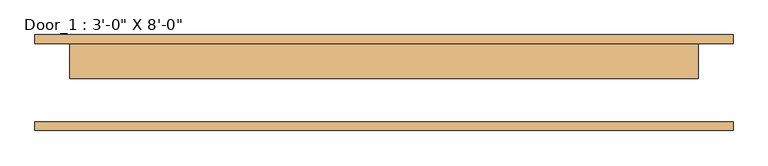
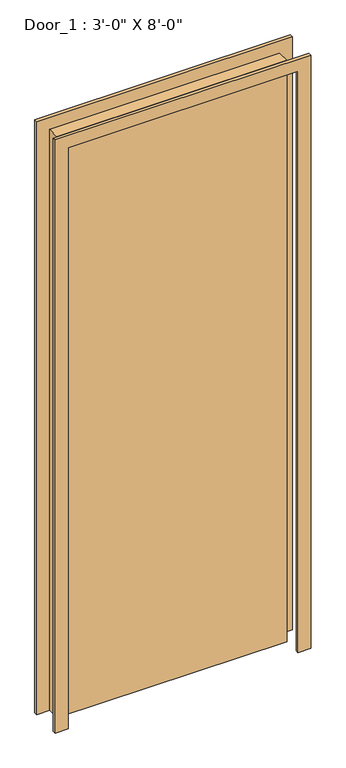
"""IFC4 building model written with IfcOpenShell, lengths in millimetres: door geometry."""

import ifcopenshell
import ifcopenshell.guid

model = None  # the IFC model being written
_history = None  # IfcOwnerHistory: only IFC2X3 demands one
_inside = {}  # id of a spatial element -> (the spatial element, [elements in it])
_under = {}  # id of a project, library or spatial element -> (it, [spatial elements below it])
_declared = {}  # id of a project -> (the project, [libraries it declares])
_typed = {}  # id of a type object -> (the type object, [elements of that type])
_made_of = {}  # id of a material, layer set ... -> (it, [elements and type objects made of it])


def new_model(schema):
    """Start an empty IFC model of exactly this schema.

    Asked for "IFC4X3", IfcOpenShell would pick the latest addendum, in which some entities
    have other attributes; the version numbers below select the first issue.
    IFC2X3 requires an IfcOwnerHistory on every rooted entity: one is made here for all.
    """
    global model, _history
    if schema == "IFC4X3":
        model = ifcopenshell.file(schema_version=(4, 3, 0, 0))
    else:
        model = ifcopenshell.file(schema=schema)
    _inside.clear()
    _under.clear()
    _declared.clear()
    _typed.clear()
    _made_of.clear()
    _history = None
    if model.schema == "IFC2X3":
        org = make("IfcOrganization", Name="unknown")
        user = make(
            "IfcPersonAndOrganization",
            ThePerson=make("IfcPerson", FamilyName="unknown"),
            TheOrganization=org,
        )
        app = make(
            "IfcApplication",
            ApplicationDeveloper=org,
            Version="unknown",
            ApplicationFullName="unknown",
            ApplicationIdentifier="unknown",
        )
        _history = make(
            "IfcOwnerHistory",
            OwningUser=user,
            OwningApplication=app,
            ChangeAction="ADDED",
            CreationDate=0,
        )
    return model


def make(cls, **values):
    """One entity of the class cls with the attributes given. An attribute that is None is left unset."""
    return model.create_entity(
        cls, **{name: value for name, value in values.items() if value is not None}
    )


def rooted(cls, **values):
    """An entity with a GlobalId (a new one), such as an element, a storey or a relation."""
    return make(cls, GlobalId=ifcopenshell.guid.new(), OwnerHistory=_history, **values)


def si_unit(unit_type, name, prefix=None):
    """IfcSIUnit, for example si_unit("LENGTHUNIT", "METRE", prefix="MILLI")."""
    return make("IfcSIUnit", UnitType=unit_type, Prefix=prefix, Name=name)


def assignment(units):
    """IfcUnitAssignment: the units of a project."""
    return None if units is None else make("IfcUnitAssignment", Units=units)


def point(xyz):
    """IfcCartesianPoint."""
    return None if xyz is None else make("IfcCartesianPoint", Coordinates=xyz)


def direction(xyz):
    """IfcDirection."""
    return None if xyz is None else make("IfcDirection", DirectionRatios=xyz)


def frame(location, z_axis=None, x_axis=None):
    """IfcAxis2Placement3D, a coordinate frame: its origin and axes. An axis left out is left unset."""
    return make(
        "IfcAxis2Placement3D",
        Location=point(location),
        Axis=direction(z_axis),
        RefDirection=direction(x_axis),
    )


def origin():
    """The frame at (0, 0, 0) with its axes left unset."""
    return frame((0.0, 0.0, 0.0))


def origin_with_axes():
    """The frame at (0, 0, 0) with the z axis (0, 0, 1) and the x axis (1, 0, 0) written out."""
    return frame((0.0, 0.0, 0.0), z_axis=(0.0, 0.0, 1.0), x_axis=(1.0, 0.0, 0.0))


def place(relative_to, where):
    """IfcLocalPlacement: puts the frame where relative to a parent placement (None: the world)."""
    return make(
        "IfcLocalPlacement", PlacementRelTo=relative_to, RelativePlacement=where
    )


def context(
    kind, dimensions, precision=None, world=None, true_north=None, identifier=None
):
    """IfcGeometricRepresentationContext, for example the 3D "Model" context."""
    return make(
        "IfcGeometricRepresentationContext",
        ContextIdentifier=identifier,
        ContextType=kind,
        CoordinateSpaceDimension=dimensions,
        Precision=precision,
        WorldCoordinateSystem=world,
        TrueNorth=true_north,
    )


def project(units=None, contexts=None):
    """IfcProject with its units and contexts."""
    return rooted(
        "IfcProject",
        Name="project",
        RepresentationContexts=contexts,
        UnitsInContext=assignment(units),
    )


def spatial(cls, under=None, at=None, **own):
    """A site, building, storey or space (cls), placed at a placement, below another one or the project."""
    s = rooted(cls, ObjectPlacement=at, **own)
    if under is not None:
        _under.setdefault(under.id(), (under, []))[1].append(s)
    return s


def polyline(points):
    """IfcPolyline through the points."""
    return make("IfcPolyline", Points=[point(p) for p in points])


def outline(outer, holes=None, kind="AREA"):
    """IfcArbitraryClosedProfileDef: a profile drawn as a closed curve; with holes, ...WithVoids."""
    if holes is None:
        return make("IfcArbitraryClosedProfileDef", ProfileType=kind, OuterCurve=outer)
    return make(
        "IfcArbitraryProfileDefWithVoids",
        ProfileType=kind,
        OuterCurve=outer,
        InnerCurves=holes,
    )


def extrude(swept, where, along, depth):
    """IfcExtrudedAreaSolid: the profile swept, set in the frame where, extruded along a direction by depth."""
    return make(
        "IfcExtrudedAreaSolid",
        SweptArea=swept,
        Position=where,
        ExtrudedDirection=direction(along),
        Depth=depth,
    )


def shape(context_of_items, identifier, shape_type, items):
    """IfcShapeRepresentation: the items that make up one representation, for example the "Body"."""
    return make(
        "IfcShapeRepresentation",
        ContextOfItems=context_of_items,
        RepresentationIdentifier=identifier,
        RepresentationType=shape_type,
        Items=items,
    )


def source(mapping_origin, context_of_items, identifier, shape_type, items):
    """IfcRepresentationMap: a shape defined once, which mapped items show again and again."""
    return make(
        "IfcRepresentationMap",
        MappingOrigin=mapping_origin,
        MappedRepresentation=shape(context_of_items, identifier, shape_type, items),
    )


def transform(
    local_origin,
    x_axis=None,
    y_axis=None,
    z_axis=None,
    scale=None,
    scale2=None,
    scale3=None,
    uniform=True,
):
    """IfcCartesianTransformationOperator3D, or its non-uniform kind. x_axis, y_axis, z_axis: its Axis1, 2, 3."""
    if uniform:
        return make(
            "IfcCartesianTransformationOperator3D",
            Axis1=direction(x_axis),
            Axis2=direction(y_axis),
            LocalOrigin=point(local_origin),
            Scale=scale,
            Axis3=direction(z_axis),
        )
    return make(
        "IfcCartesianTransformationOperator3DnonUniform",
        Axis1=direction(x_axis),
        Axis2=direction(y_axis),
        LocalOrigin=point(local_origin),
        Scale=scale,
        Axis3=direction(z_axis),
        Scale2=scale2,
        Scale3=scale3,
    )


def mapped(mapping_source, mapping_target):
    """IfcMappedItem: shows the shape of a source again, moved by a transform."""
    return make(
        "IfcMappedItem", MappingSource=mapping_source, MappingTarget=mapping_target
    )


def made_of(thing, what):
    """Note that an element or type object is made of a material, layer set ...; save() writes the relation."""
    if what is not None:
        _made_of.setdefault(what.id(), (what, []))[1].append(thing)
    return thing


def element(
    cls,
    number,
    at=None,
    inside=None,
    cuts=None,
    type_object=None,
    material=None,
    context=None,
    identifier="Body",
    shape_type=None,
    held_by="IfcProductDefinitionShape",
    body=None,
    shapes=None,
    **own,
):
    """One element of the class cls, such as IfcWall. Its Tag is "e" and its number.

    at: its placement. inside: the storey or other place that contains it. cuts: it is an
    opening in that element (IfcRelVoidsElement). A single representation is given by context,
    identifier, shape_type and body (its items); several are given by shapes. held_by: the class
    of the entity that holds the representations. save() writes the other relations.
    """
    e = rooted(cls, Tag="e%d" % number, ObjectPlacement=at, **own)
    if body is not None:
        shapes = [shape(context, identifier, shape_type, body)]
    if shapes is not None:
        e.Representation = make(held_by, Representations=shapes)
    if inside is not None:
        _inside.setdefault(inside.id(), (inside, []))[1].append(e)
    if cuts is not None:
        rooted(
            "IfcRelVoidsElement", RelatingBuildingElement=cuts, RelatedOpeningElement=e
        )
    if type_object is not None:
        _typed.setdefault(type_object.id(), (type_object, []))[1].append(e)
    return made_of(e, material)


def aggregate(whole, parts):
    """IfcRelAggregates: a whole, such as a stair, and the parts it consists of."""
    return rooted("IfcRelAggregates", RelatingObject=whole, RelatedObjects=parts)


def save(model, path):
    """Write the relations noted so far, then the file.

    IfcRelAggregates (storeys below a building ...), IfcRelContainedInSpatialStructure (elements
    in a storey), IfcRelDefinesByType, IfcRelAssociatesMaterial and IfcRelDeclares: one each for
    every whole, place, type object, material and project.
    """
    for whole, parts in _under.values():
        aggregate(whole, parts)
    for where, things in _inside.values():
        rooted(
            "IfcRelContainedInSpatialStructure",
            RelatedElements=things,
            RelatingStructure=where,
        )
    for kind, things in _typed.values():
        rooted("IfcRelDefinesByType", RelatedObjects=things, RelatingType=kind)
    for what, things in _made_of.values():
        rooted("IfcRelAssociatesMaterial", RelatedObjects=things, RelatingMaterial=what)
    for by, libraries in _declared.values():
        rooted("IfcRelDeclares", RelatingContext=by, RelatedDefinitions=libraries)
    model.write(path)


def door_72c844fb(model_context):
    return source(origin(), model_context, "Body", "SweptSolid", [
        extrude(outline(polyline([(2489.2, -508.0), (0.0, -508.0), (0.0, -457.2), (2438.4, -457.2), (2438.4, 457.2), (0.0, 457.2), (0.0, 508.0), (2489.2, 508.0), (2489.2, -508.0)])), frame((0.0, 57.15, 0.0), z_axis=(0.0, 1.0, 0.0), x_axis=(0.0, 0.0, 1.0)), (0.0, 0.0, 1.0), 12.7),
        extrude(outline(polyline([(2489.2, 508.0), (2489.2, -508.0), (0.0, -508.0), (0.0, -457.2), (2438.4, -457.2), (2438.4, 457.2), (0.0, 457.2), (0.0, 508.0), (2489.2, 508.0)])), frame((0.0, -69.85, 0.0), z_axis=(0.0, 1.0, 0.0), x_axis=(0.0, 0.0, 1.0)), (0.0, 0.0, 1.0), 12.7),
        extrude(outline(polyline([(457.2, 6.35), (-457.2, 6.35), (-457.2, 57.15), (457.2, 57.15), (457.2, 6.35)])), origin_with_axes(), (0.0, 0.0, 1.0), 2438.4),
    ])


if __name__ == "__main__":
    model = new_model("IFC4")
    model_context = context("Model", 3, world=origin())
    ifc_project = project(units=[si_unit("LENGTHUNIT", "METRE", prefix="MILLI")], contexts=[model_context])
    site = spatial("IfcSite", under=ifc_project)
    building = spatial("IfcBuilding", under=site)
    placement = place(None, origin())
    door_shape = door_72c844fb(model_context)
    element("IfcDoor", 1, ObjectType="Door_1 : 3'-0\" X 8'-0\"", at=placement, inside=building, context=model_context, shape_type="MappedRepresentation", body=[
        mapped(door_shape, transform((0.0, 0.0, 0.0), x_axis=(1.0, 0.0, 0.0), y_axis=(0.0, 1.0, 0.0), z_axis=(0.0, 0.0, 1.0))),
    ])
    save(model, "model.ifc")
